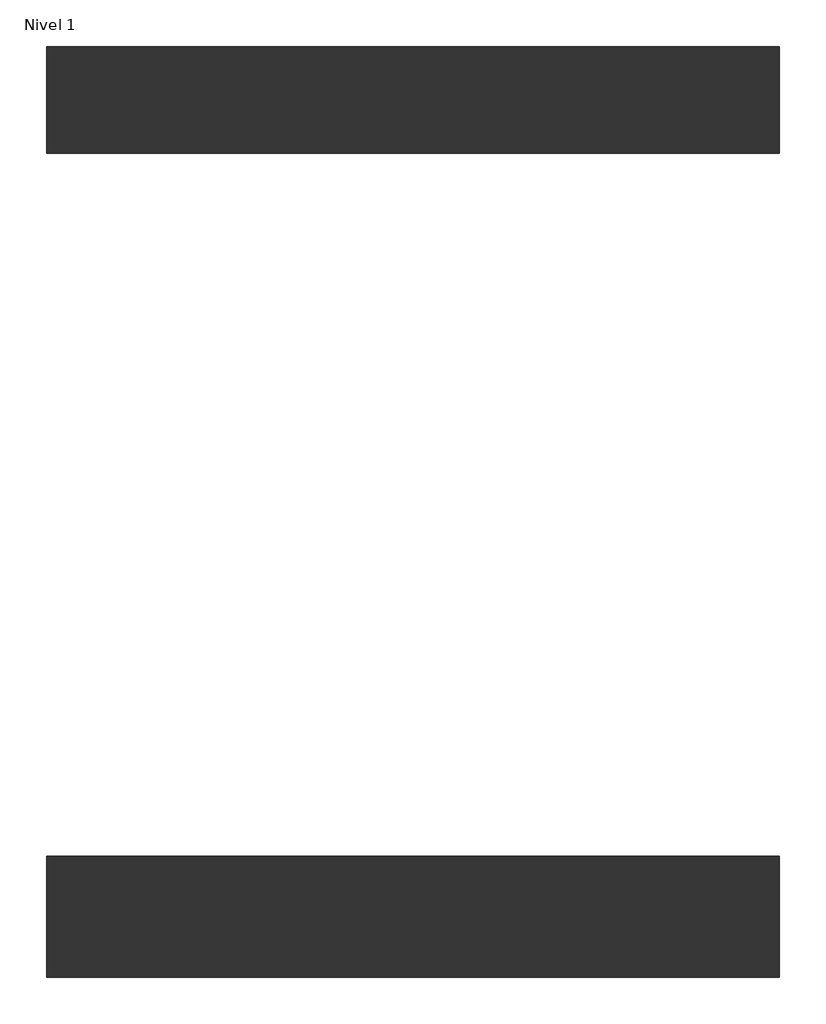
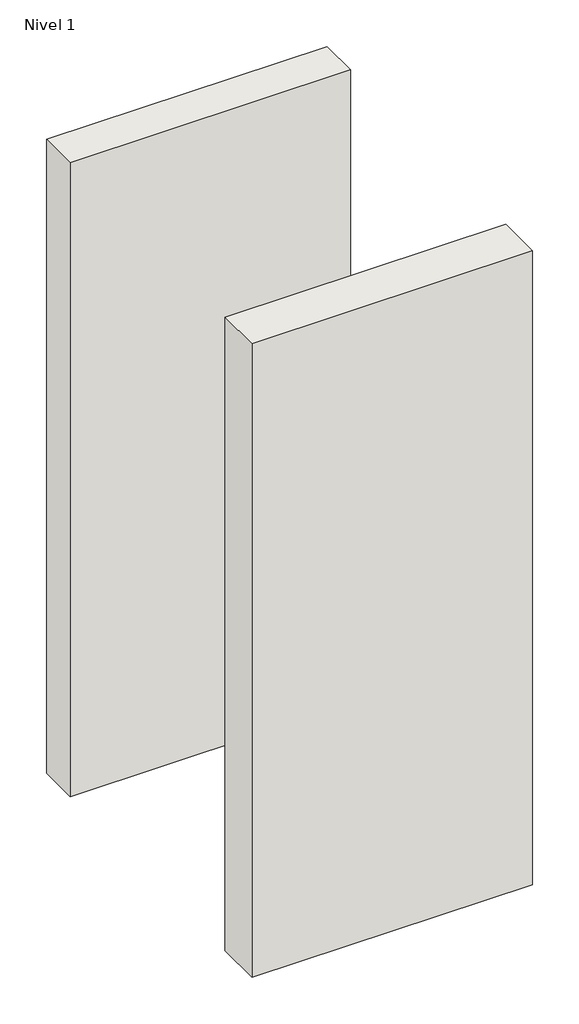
# One storey: 2 walls.
"""IFC4 building model written with IfcOpenShell, lengths in millimetres."""

import ifcopenshell
import ifcopenshell.guid

model = None  # the IFC model being written
_history = None  # IfcOwnerHistory: only IFC2X3 demands one
_inside = {}  # id of a spatial element -> (the spatial element, [elements in it])
_under = {}  # id of a project, library or spatial element -> (it, [spatial elements below it])
_declared = {}  # id of a project -> (the project, [libraries it declares])
_typed = {}  # id of a type object -> (the type object, [elements of that type])
_made_of = {}  # id of a material, layer set ... -> (it, [elements and type objects made of it])


def new_model(schema):
    """Start an empty IFC model of exactly this schema.

    Asked for "IFC4X3", IfcOpenShell would pick the latest addendum, in which some entities
    have other attributes; the version numbers below select the first issue.
    IFC2X3 requires an IfcOwnerHistory on every rooted entity: one is made here for all.
    """
    global model, _history
    if schema == "IFC4X3":
        model = ifcopenshell.file(schema_version=(4, 3, 0, 0))
    else:
        model = ifcopenshell.file(schema=schema)
    _inside.clear()
    _under.clear()
    _declared.clear()
    _typed.clear()
    _made_of.clear()
    _history = None
    if model.schema == "IFC2X3":
        org = make("IfcOrganization", Name="unknown")
        user = make(
            "IfcPersonAndOrganization",
            ThePerson=make("IfcPerson", FamilyName="unknown"),
            TheOrganization=org,
        )
        app = make(
            "IfcApplication",
            ApplicationDeveloper=org,
            Version="unknown",
            ApplicationFullName="unknown",
            ApplicationIdentifier="unknown",
        )
        _history = make(
            "IfcOwnerHistory",
            OwningUser=user,
            OwningApplication=app,
            ChangeAction="ADDED",
            CreationDate=0,
        )
    return model


def make(cls, **values):
    """One entity of the class cls with the attributes given. An attribute that is None is left unset."""
    return model.create_entity(
        cls, **{name: value for name, value in values.items() if value is not None}
    )


def rooted(cls, **values):
    """An entity with a GlobalId (a new one), such as an element, a storey or a relation."""
    return make(cls, GlobalId=ifcopenshell.guid.new(), OwnerHistory=_history, **values)


def si_unit(unit_type, name, prefix=None):
    """IfcSIUnit, for example si_unit("LENGTHUNIT", "METRE", prefix="MILLI")."""
    return make("IfcSIUnit", UnitType=unit_type, Prefix=prefix, Name=name)


def assignment(units):
    """IfcUnitAssignment: the units of a project."""
    return None if units is None else make("IfcUnitAssignment", Units=units)


def point(xyz):
    """IfcCartesianPoint."""
    return None if xyz is None else make("IfcCartesianPoint", Coordinates=xyz)


def direction(xyz):
    """IfcDirection."""
    return None if xyz is None else make("IfcDirection", DirectionRatios=xyz)


def frame(location, z_axis=None, x_axis=None):
    """IfcAxis2Placement3D, a coordinate frame: its origin and axes. An axis left out is left unset."""
    return make(
        "IfcAxis2Placement3D",
        Location=point(location),
        Axis=direction(z_axis),
        RefDirection=direction(x_axis),
    )


def origin():
    """The frame at (0, 0, 0) with its axes left unset."""
    return frame((0.0, 0.0, 0.0))


def origin_with_axes():
    """The frame at (0, 0, 0) with the z axis (0, 0, 1) and the x axis (1, 0, 0) written out."""
    return frame((0.0, 0.0, 0.0), z_axis=(0.0, 0.0, 1.0), x_axis=(1.0, 0.0, 0.0))


def place(relative_to, where):
    """IfcLocalPlacement: puts the frame where relative to a parent placement (None: the world)."""
    return make(
        "IfcLocalPlacement", PlacementRelTo=relative_to, RelativePlacement=where
    )


def context(
    kind, dimensions, precision=None, world=None, true_north=None, identifier=None
):
    """IfcGeometricRepresentationContext, for example the 3D "Model" context."""
    return make(
        "IfcGeometricRepresentationContext",
        ContextIdentifier=identifier,
        ContextType=kind,
        CoordinateSpaceDimension=dimensions,
        Precision=precision,
        WorldCoordinateSystem=world,
        TrueNorth=true_north,
    )


def project(units=None, contexts=None):
    """IfcProject with its units and contexts."""
    return rooted(
        "IfcProject",
        Name="project",
        RepresentationContexts=contexts,
        UnitsInContext=assignment(units),
    )


def spatial(cls, under=None, at=None, **own):
    """A site, building, storey or space (cls), placed at a placement, below another one or the project."""
    s = rooted(cls, ObjectPlacement=at, **own)
    if under is not None:
        _under.setdefault(under.id(), (under, []))[1].append(s)
    return s


def polyline(points):
    """IfcPolyline through the points."""
    return make("IfcPolyline", Points=[point(p) for p in points])


def outline(outer, holes=None, kind="AREA"):
    """IfcArbitraryClosedProfileDef: a profile drawn as a closed curve; with holes, ...WithVoids."""
    if holes is None:
        return make("IfcArbitraryClosedProfileDef", ProfileType=kind, OuterCurve=outer)
    return make(
        "IfcArbitraryProfileDefWithVoids",
        ProfileType=kind,
        OuterCurve=outer,
        InnerCurves=holes,
    )


def extrude(swept, where, along, depth):
    """IfcExtrudedAreaSolid: the profile swept, set in the frame where, extruded along a direction by depth."""
    return make(
        "IfcExtrudedAreaSolid",
        SweptArea=swept,
        Position=where,
        ExtrudedDirection=direction(along),
        Depth=depth,
    )


def shape(context_of_items, identifier, shape_type, items):
    """IfcShapeRepresentation: the items that make up one representation, for example the "Body"."""
    return make(
        "IfcShapeRepresentation",
        ContextOfItems=context_of_items,
        RepresentationIdentifier=identifier,
        RepresentationType=shape_type,
        Items=items,
    )


def made_of(thing, what):
    """Note that an element or type object is made of a material, layer set ...; save() writes the relation."""
    if what is not None:
        _made_of.setdefault(what.id(), (what, []))[1].append(thing)
    return thing


def element(
    cls,
    number,
    at=None,
    inside=None,
    cuts=None,
    type_object=None,
    material=None,
    context=None,
    identifier="Body",
    shape_type=None,
    held_by="IfcProductDefinitionShape",
    body=None,
    shapes=None,
    **own,
):
    """One element of the class cls, such as IfcWall. Its Tag is "e" and its number.

    at: its placement. inside: the storey or other place that contains it. cuts: it is an
    opening in that element (IfcRelVoidsElement). A single representation is given by context,
    identifier, shape_type and body (its items); several are given by shapes. held_by: the class
    of the entity that holds the representations. save() writes the other relations.
    """
    e = rooted(cls, Tag="e%d" % number, ObjectPlacement=at, **own)
    if body is not None:
        shapes = [shape(context, identifier, shape_type, body)]
    if shapes is not None:
        e.Representation = make(held_by, Representations=shapes)
    if inside is not None:
        _inside.setdefault(inside.id(), (inside, []))[1].append(e)
    if cuts is not None:
        rooted(
            "IfcRelVoidsElement", RelatingBuildingElement=cuts, RelatedOpeningElement=e
        )
    if type_object is not None:
        _typed.setdefault(type_object.id(), (type_object, []))[1].append(e)
    return made_of(e, material)


def aggregate(whole, parts):
    """IfcRelAggregates: a whole, such as a stair, and the parts it consists of."""
    return rooted("IfcRelAggregates", RelatingObject=whole, RelatedObjects=parts)


def save(model, path):
    """Write the relations noted so far, then the file.

    IfcRelAggregates (storeys below a building ...), IfcRelContainedInSpatialStructure (elements
    in a storey), IfcRelDefinesByType, IfcRelAssociatesMaterial and IfcRelDeclares: one each for
    every whole, place, type object, material and project.
    """
    for whole, parts in _under.values():
        aggregate(whole, parts)
    for where, things in _inside.values():
        rooted(
            "IfcRelContainedInSpatialStructure",
            RelatedElements=things,
            RelatingStructure=where,
        )
    for kind, things in _typed.values():
        rooted("IfcRelDefinesByType", RelatedObjects=things, RelatingType=kind)
    for what, things in _made_of.values():
        rooted("IfcRelAssociatesMaterial", RelatedObjects=things, RelatingMaterial=what)
    for by, libraries in _declared.values():
        rooted("IfcRelDeclares", RelatingContext=by, RelatedDefinitions=libraries)
    model.write(path)


model = new_model("IFC4")

# Units and contexts
model_context = context("Model", 3, world=origin())
ifc_project = project(units=[si_unit("LENGTHUNIT", "METRE", prefix="MILLI")], contexts=[model_context])

# Site, building, storey
site = spatial("IfcSite", under=ifc_project)
building = spatial("IfcBuilding", under=site)
storey = spatial("IfcBuildingStorey", under=building, Name="Nivel 1", Elevation=0.0)

# Walls
placement = place(None, origin())
element("IfcWall", 1, ObjectType="Fachada - Placotherm® Integra 185 mm arena APTA (Glasroc®X)", at=placement, inside=storey, context=model_context, shape_type="SweptSolid", body=[
    extrude(outline(polyline([(793.6737924, -2041.2945576), (-462.9948721, -2041.2945576), (-462.9948721, -1858.7945576), (793.6737924, -1858.7945576), (793.6737924, -2041.2945576)])), origin_with_axes(), (0.0, 0.0, 1.0), 3000.0),
])
element("IfcWall", 2, ObjectType="Fachada - Placotherm® Integra 210 mm arena APTA (Glasroc®X)", at=placement, inside=storey, context=model_context, shape_type="SweptSolid", body=[
    extrude(outline(polyline([(793.6737924, -3453.7945576), (-462.9948721, -3453.7945576), (-462.9948721, -3246.2945576), (793.6737924, -3246.2945576), (793.6737924, -3453.7945576)])), origin_with_axes(), (0.0, 0.0, 1.0), 3000.0),
])

save(model, "model.ifc")
